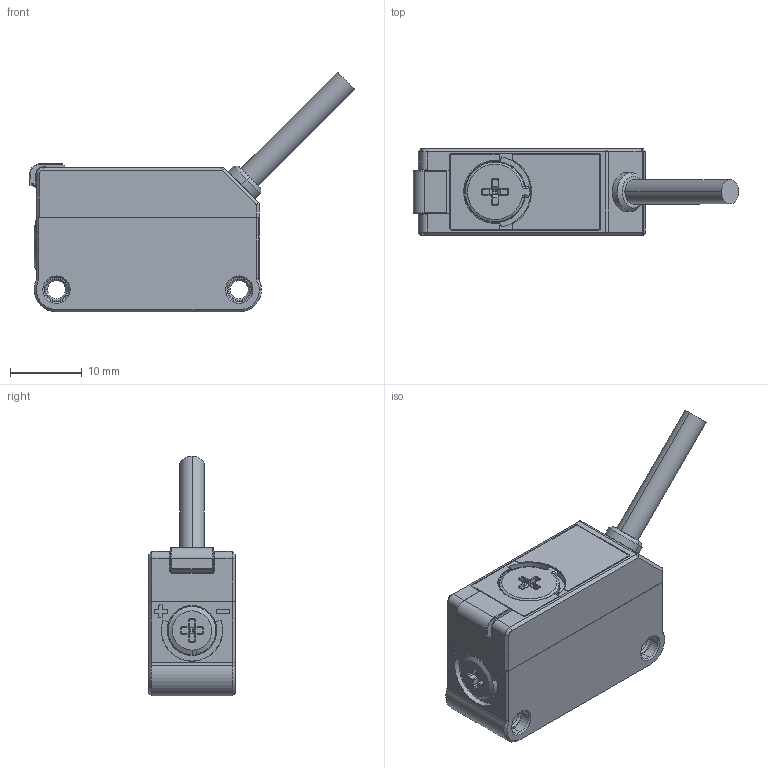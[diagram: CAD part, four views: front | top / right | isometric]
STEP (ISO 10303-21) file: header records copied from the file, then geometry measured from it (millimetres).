
FILE_DESCRIPTION((''),'2;1');
FILE_NAME('PE1','2022-08-24T22:17:39',('wangyijun6'),(''),'CREO PARAMETRIC BY PTC INC, 2017260','CREO PARAMETRIC BY PTC INC, 2017260','');
FILE_SCHEMA(('CONFIG_CONTROL_DESIGN'));
Length unit declared in the file: millimetre
Products named in the file (1): PE1
Bounding box: 45.28 x 12 x 33.36 mm (x, y, z)
Volume: 6906.9 mm3; surface area: 4547.3 mm2
Topology: 1 solids, 3 shells, 748 faces, 2039 edges, 1297 vertices
Faces by surface type: plane 300, cylinder 212, cone 129, torus 50, bspline 47, sphere 8, extrusion 2
Entity records: 27933 total; most frequent: CARTESIAN_POINT 9404, ORIENTED_EDGE 4056, DIRECTION 3660, EDGE_CURVE 2032, AXIS2_PLACEMENT_3D 1314, VERTEX_POINT 1297, VECTOR 1032, LINE 1030
